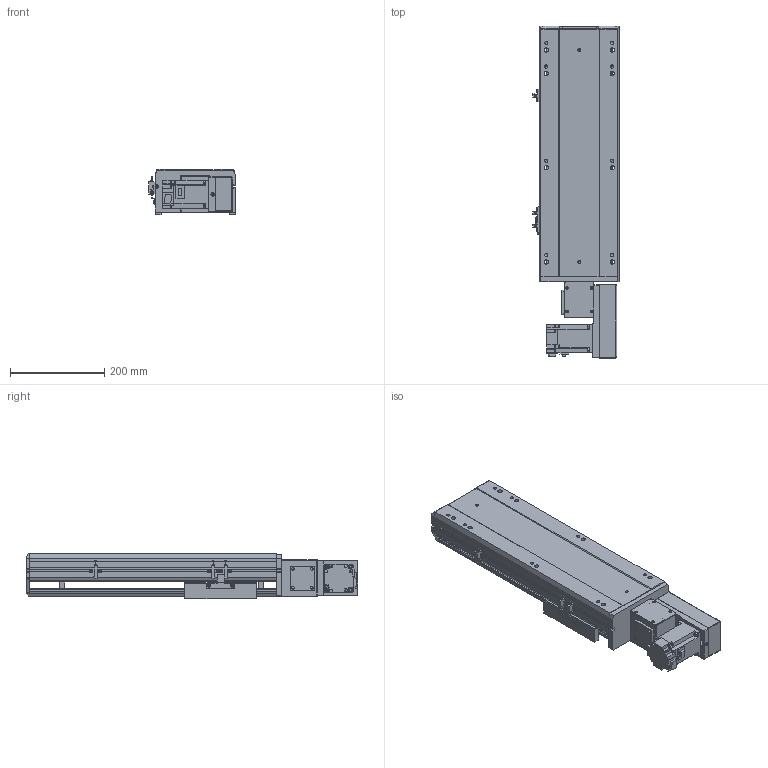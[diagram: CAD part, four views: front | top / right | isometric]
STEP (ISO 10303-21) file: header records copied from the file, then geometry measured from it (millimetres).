
FILE_DESCRIPTION (( 'STEP AP203' ), '1' );
FILE_NAME ('BTB17-L40-250-L-M40-C4.STEP', '2022-07-20T02:40:14', ( 'CXY' ), ( 'BT' ), 'SwSTEP 2.0', 'SolidWorks 2016', '' );
FILE_SCHEMA (( 'CONFIG_CONTROL_DESIGN' ));
Length unit declared in the file: millimetre
Products named in the file (11): BTB17-L40-250-L-M40-C4; BTB17-L-06; FS-08-T40; BTB17-L-04; BTB17-L-24; BTB17-L-01; BTB17-L-菁釱_XD; M40; BTB17-L-23; BTB17-L-HZ; FS-07-T40(1)
Assembly tree (13 placements, depth 2):
  BTB17-L40-250-L-M40-C4
    BTB17-L-菁釱_XD
    BTB17-L-01
    BTB17-L-04  x3
    BTB17-L-06
    BTB17-L-23  x2
    BTB17-L-24
    BTB17-L-HZ
    FS-07-T40(1)
    FS-08-T40
    M40
Bounding box: 183.7 x 704.5 x 97 mm (x, y, z)
Volume: 5623341.8 mm3; surface area: 884435 mm2
Topology: 22 solids, 22 shells, 1561 faces, 4119 edges, 2618 vertices
Faces by surface type: plane 901, cylinder 488, cone 140, torus 16, bspline 16
Entity records: 40450 total; most frequent: CARTESIAN_POINT 8002, DIRECTION 6553, ORIENTED_EDGE 6414, EDGE_CURVE 3207, AXIS2_PLACEMENT_3D 2191, LINE 2171, VECTOR 2171, VERTEX_POINT 2086
